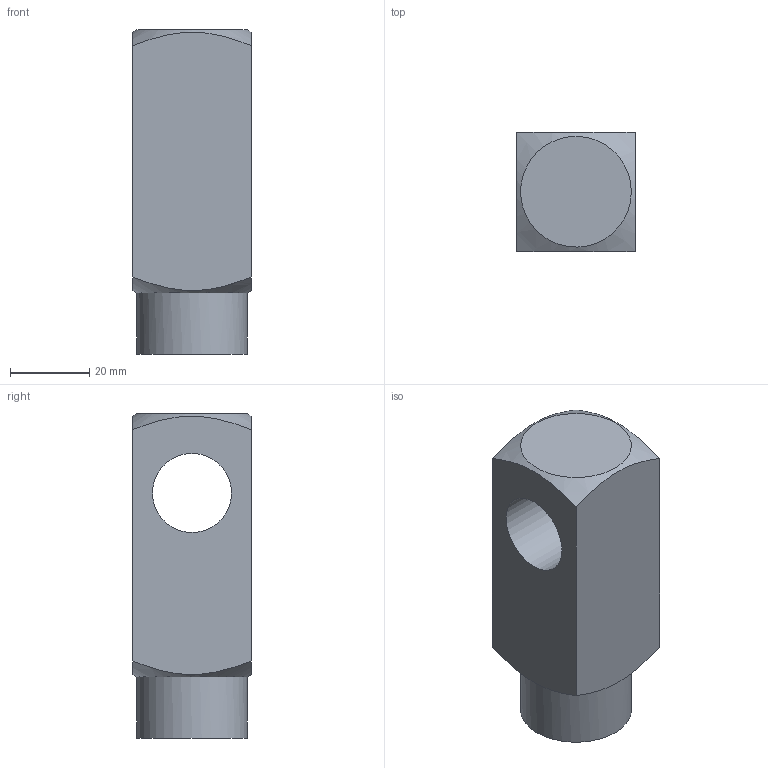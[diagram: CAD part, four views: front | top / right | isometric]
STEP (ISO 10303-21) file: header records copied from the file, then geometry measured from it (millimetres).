
FILE_DESCRIPTION(/* description */ ('Unknown'),/* implementation_level */ '2;1');
FILE_NAME(/* name */ 'WA80_WA100_I',/* time_stamp */ '2026-07-17T17:02:03+08:00',/* author */ ('Unknown'),/* organization */ ('Unknown'),/* preprocessor_version */ 'ST-DEVELOPER v16.7',/* originating_system */ 'DEX',/* authorisation */ $);
FILE_SCHEMA (('CONFIG_CONTROL_DESIGN'));
Length unit declared in the file: millimetre
Products named in the file (1): WA80_WA100_I
Bounding box: 30 x 30 x 82 mm (x, y, z)
Volume: 48733.9 mm3; surface area: 14291.5 mm2
Topology: 1 solids, 1 shells, 12 faces, 30 edges, 20 vertices
Faces by surface type: plane 6, cylinder 3, cone 3
Full cylindrical faces by diameter (mm): 18.376 x1, 20 x1, 28 x1
Entity records: 450 total; most frequent: CARTESIAN_POINT 112, DIRECTION 44, ORIENTED_EDGE 38, FACE_BOUND 21, EDGE_LOOP 20, AXIS2_PLACEMENT_3D 20, EDGE_CURVE 19, VERTEX_POINT 16
